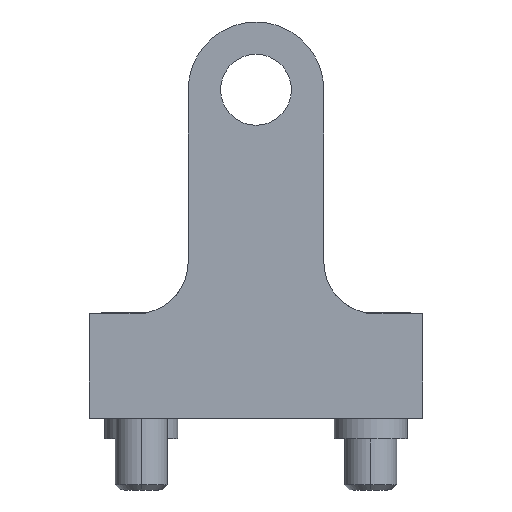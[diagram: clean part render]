
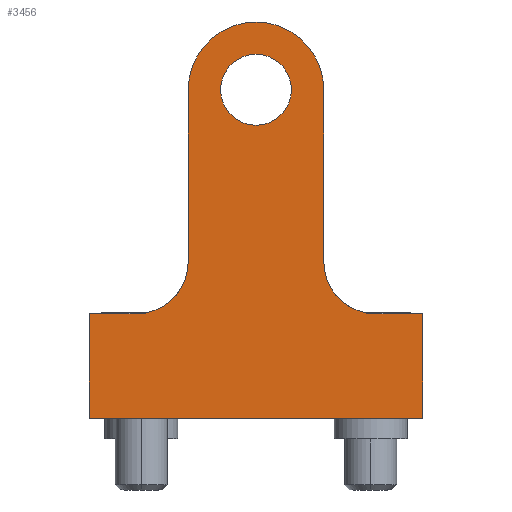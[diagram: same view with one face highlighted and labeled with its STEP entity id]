
A CAD part, front view. The second image highlights one B-rep face of the part: STEP entity #3456.
In plain terms, the highlighted planar face has unit normal (0, -1, 0).
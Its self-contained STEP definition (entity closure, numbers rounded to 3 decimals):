
#28 = AXIS2_PLACEMENT_3D ( 'NONE', #4351, #388, #1715 ) ;
#201 = DIRECTION ( 'NONE',  ( 0., 0., -1. ) ) ;
#257 = LINE ( 'NONE', #671, #1382 ) ;
#338 = CARTESIAN_POINT ( 'NONE',  ( 0., 0., 31.5 ) ) ;
#355 = EDGE_CURVE ( 'NONE', #5412, #903, #3901, .T. ) ;
#378 = ORIENTED_EDGE ( 'NONE', *, *, #4385, .T. ) ;
#388 = DIRECTION ( 'NONE',  ( 0., 1., 0. ) ) ;
#415 = ORIENTED_EDGE ( 'NONE', *, *, #1338, .T. ) ;
#473 = EDGE_CURVE ( 'NONE', #590, #3767, #3033, .T. ) ;
#496 = AXIS2_PLACEMENT_3D ( 'NONE', #1536, #1110, #4645 ) ;
#582 = CARTESIAN_POINT ( 'NONE',  ( 6.5, 0., 15. ) ) ;
#590 = VERTEX_POINT ( 'NONE', #1130 ) ;
#637 = PLANE ( 'NONE',  #3792 ) ;
#661 = VECTOR ( 'NONE', #3715, 1000. ) ;
#671 = CARTESIAN_POINT ( 'NONE',  ( 16., 0., 10. ) ) ;
#691 = ORIENTED_EDGE ( 'NONE', *, *, #1775, .F. ) ;
#703 = AXIS2_PLACEMENT_3D ( 'NONE', #5125, #3280, #4646 ) ;
#740 = DIRECTION ( 'NONE',  ( 0., 0., 1. ) ) ;
#771 = VECTOR ( 'NONE', #2351, 1000. ) ;
#840 = DIRECTION ( 'NONE',  ( 1., 0., 0. ) ) ;
#903 = VERTEX_POINT ( 'NONE', #2287 ) ;
#968 = EDGE_CURVE ( 'NONE', #2734, #2979, #257, .T. ) ;
#975 = CARTESIAN_POINT ( 'NONE',  ( -16., 0., 10. ) ) ;
#990 = DIRECTION ( 'NONE',  ( 0., 0., -1. ) ) ;
#1081 = FACE_BOUND ( 'NONE', #5277, .T. ) ;
#1085 = CIRCLE ( 'NONE', #703, 5. ) ;
#1101 = EDGE_LOOP ( 'NONE', ( #4209, #1217, #1328, #1678, #5623, #2100, #691, #4723, #3414, #378 ) ) ;
#1110 = DIRECTION ( 'NONE',  ( 0., -1., 0. ) ) ;
#1130 = CARTESIAN_POINT ( 'NONE',  ( 6.5, 0., 31.5 ) ) ;
#1142 = CIRCLE ( 'NONE', #28, 3.4 ) ;
#1217 = ORIENTED_EDGE ( 'NONE', *, *, #968, .F. ) ;
#1328 = ORIENTED_EDGE ( 'NONE', *, *, #4060, .F. ) ;
#1338 = EDGE_CURVE ( 'NONE', #4907, #5010, #2768, .T. ) ;
#1382 = VECTOR ( 'NONE', #201, 1000. ) ;
#1399 = CARTESIAN_POINT ( 'NONE',  ( -6.5, 0., 31.5 ) ) ;
#1440 = DIRECTION ( 'NONE',  ( 1., 0., 0. ) ) ;
#1484 = CARTESIAN_POINT ( 'NONE',  ( -6.5, 0., 15. ) ) ;
#1536 = CARTESIAN_POINT ( 'NONE',  ( -11.5, 0., 15. ) ) ;
#1602 = VECTOR ( 'NONE', #990, 1000. ) ;
#1678 = ORIENTED_EDGE ( 'NONE', *, *, #5387, .F. ) ;
#1715 = DIRECTION ( 'NONE',  ( 0., 0., 1. ) ) ;
#1775 = EDGE_CURVE ( 'NONE', #1815, #3517, #4119, .T. ) ;
#1815 = VERTEX_POINT ( 'NONE', #4705 ) ;
#1819 = VECTOR ( 'NONE', #840, 1000. ) ;
#1864 = DIRECTION ( 'NONE',  ( 0., 1., 0. ) ) ;
#1965 = FACE_OUTER_BOUND ( 'NONE', #1101, .T. ) ;
#1967 = CARTESIAN_POINT ( 'NONE',  ( -16., 0., 10. ) ) ;
#2100 = ORIENTED_EDGE ( 'NONE', *, *, #3806, .F. ) ;
#2152 = DIRECTION ( 'NONE',  ( 0., 1., 0. ) ) ;
#2155 = CARTESIAN_POINT ( 'NONE',  ( 0., 0., 34.9 ) ) ;
#2234 = CARTESIAN_POINT ( 'NONE',  ( -16., 0., 10. ) ) ;
#2259 = LINE ( 'NONE', #2234, #1602 ) ;
#2287 = CARTESIAN_POINT ( 'NONE',  ( -11.5, 0., 10. ) ) ;
#2351 = DIRECTION ( 'NONE',  ( 1., 0., 0. ) ) ;
#2354 = CARTESIAN_POINT ( 'NONE',  ( -16., 0., 0. ) ) ;
#2401 = CARTESIAN_POINT ( 'NONE',  ( -16., 0., 10. ) ) ;
#2562 = DIRECTION ( 'NONE',  ( 0., 1., 0. ) ) ;
#2687 = LINE ( 'NONE', #4892, #4496 ) ;
#2734 = VERTEX_POINT ( 'NONE', #5221 ) ;
#2768 = CIRCLE ( 'NONE', #4638, 3.4 ) ;
#2884 = CIRCLE ( 'NONE', #3984, 6.5 ) ;
#2979 = VERTEX_POINT ( 'NONE', #4146 ) ;
#2988 = VERTEX_POINT ( 'NONE', #2354 ) ;
#3004 = CARTESIAN_POINT ( 'NONE',  ( -16., 0., 10. ) ) ;
#3033 = LINE ( 'NONE', #4815, #5064 ) ;
#3135 = VERTEX_POINT ( 'NONE', #5285 ) ;
#3280 = DIRECTION ( 'NONE',  ( 0., -1., 0. ) ) ;
#3412 = DIRECTION ( 'NONE',  ( 0., 0., -1. ) ) ;
#3414 = ORIENTED_EDGE ( 'NONE', *, *, #355, .F. ) ;
#3456 = ADVANCED_FACE ( 'NONE', ( #1081, #1965 ), #637, .F. ) ;
#3517 = VERTEX_POINT ( 'NONE', #1399 ) ;
#3715 = DIRECTION ( 'NONE',  ( 0., 0., 1. ) ) ;
#3767 = VERTEX_POINT ( 'NONE', #582 ) ;
#3792 = AXIS2_PLACEMENT_3D ( 'NONE', #2401, #2152, #4770 ) ;
#3806 = EDGE_CURVE ( 'NONE', #3517, #590, #2884, .T. ) ;
#3891 = EDGE_CURVE ( 'NONE', #5010, #4907, #1142, .T. ) ;
#3901 = LINE ( 'NONE', #3004, #1819 ) ;
#3933 = EDGE_CURVE ( 'NONE', #903, #1815, #5494, .T. ) ;
#3984 = AXIS2_PLACEMENT_3D ( 'NONE', #5356, #1864, #4036 ) ;
#4024 = CARTESIAN_POINT ( 'NONE',  ( 0., 0., 28.1 ) ) ;
#4036 = DIRECTION ( 'NONE',  ( 0., 0., 1. ) ) ;
#4060 = EDGE_CURVE ( 'NONE', #3135, #2734, #4484, .T. ) ;
#4119 = LINE ( 'NONE', #1484, #661 ) ;
#4146 = CARTESIAN_POINT ( 'NONE',  ( 16., 0., 0. ) ) ;
#4209 = ORIENTED_EDGE ( 'NONE', *, *, #4725, .T. ) ;
#4351 = CARTESIAN_POINT ( 'NONE',  ( 0., 0., 31.5 ) ) ;
#4385 = EDGE_CURVE ( 'NONE', #5412, #2988, #2259, .T. ) ;
#4441 = ORIENTED_EDGE ( 'NONE', *, *, #3891, .T. ) ;
#4484 = LINE ( 'NONE', #975, #771 ) ;
#4496 = VECTOR ( 'NONE', #1440, 1000. ) ;
#4638 = AXIS2_PLACEMENT_3D ( 'NONE', #338, #2562, #740 ) ;
#4645 = DIRECTION ( 'NONE',  ( 0., 0., -1. ) ) ;
#4646 = DIRECTION ( 'NONE',  ( 0., 0., -1. ) ) ;
#4705 = CARTESIAN_POINT ( 'NONE',  ( -6.5, 0., 15. ) ) ;
#4723 = ORIENTED_EDGE ( 'NONE', *, *, #3933, .F. ) ;
#4725 = EDGE_CURVE ( 'NONE', #2988, #2979, #2687, .T. ) ;
#4770 = DIRECTION ( 'NONE',  ( -1., 0., 0. ) ) ;
#4815 = CARTESIAN_POINT ( 'NONE',  ( 6.5, 0., 31.5 ) ) ;
#4892 = CARTESIAN_POINT ( 'NONE',  ( -16., 0., 0. ) ) ;
#4907 = VERTEX_POINT ( 'NONE', #2155 ) ;
#5010 = VERTEX_POINT ( 'NONE', #4024 ) ;
#5064 = VECTOR ( 'NONE', #3412, 1000. ) ;
#5125 = CARTESIAN_POINT ( 'NONE',  ( 11.5, 0., 15. ) ) ;
#5221 = CARTESIAN_POINT ( 'NONE',  ( 16., 0., 10. ) ) ;
#5277 = EDGE_LOOP ( 'NONE', ( #415, #4441 ) ) ;
#5285 = CARTESIAN_POINT ( 'NONE',  ( 11.5, 0., 10. ) ) ;
#5356 = CARTESIAN_POINT ( 'NONE',  ( 0., 0., 31.5 ) ) ;
#5387 = EDGE_CURVE ( 'NONE', #3767, #3135, #1085, .T. ) ;
#5412 = VERTEX_POINT ( 'NONE', #1967 ) ;
#5494 = CIRCLE ( 'NONE', #496, 5. ) ;
#5623 = ORIENTED_EDGE ( 'NONE', *, *, #473, .F. ) ;
